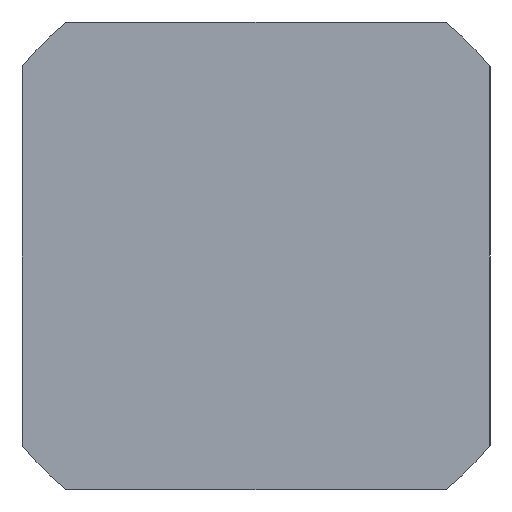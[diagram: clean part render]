
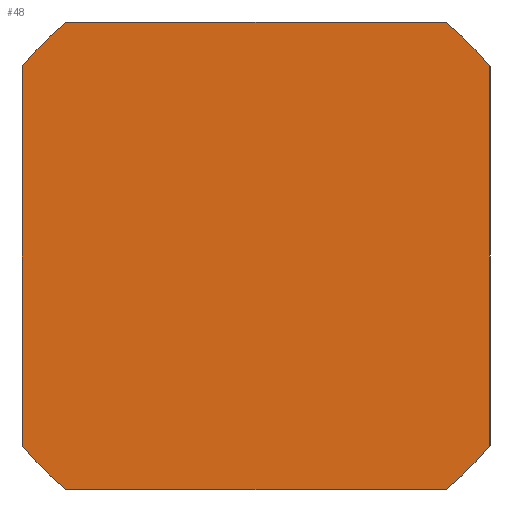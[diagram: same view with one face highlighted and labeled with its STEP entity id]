
A CAD part, front view. The second image highlights one B-rep face of the part: STEP entity #48.
In plain terms, the highlighted planar face has unit normal (0, -1, 0).
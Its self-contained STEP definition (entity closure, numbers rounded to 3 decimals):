
#38 = DIRECTION ( 'NONE',  ( 0., 1., 0. ) ) ;
#48 = ADVANCED_FACE ( 'NONE', ( #1369 ), #775, .F. ) ;
#66 = VERTEX_POINT ( 'NONE', #760 ) ;
#72 = DIRECTION ( 'NONE',  ( 0., 1., 0. ) ) ;
#87 = DIRECTION ( 'NONE',  ( 0., 0., 1. ) ) ;
#109 = AXIS2_PLACEMENT_3D ( 'NONE', #1464, #930, #145 ) ;
#112 = DIRECTION ( 'NONE',  ( 1., 0., 0. ) ) ;
#133 = VERTEX_POINT ( 'NONE', #1452 ) ;
#134 = ORIENTED_EDGE ( 'NONE', *, *, #798, .F. ) ;
#145 = DIRECTION ( 'NONE',  ( 0., 0., 1. ) ) ;
#198 = EDGE_CURVE ( 'NONE', #1624, #1243, #728, .T. ) ;
#217 = CARTESIAN_POINT ( 'NONE',  ( 0., 0., 0. ) ) ;
#228 = CARTESIAN_POINT ( 'NONE',  ( -21., 0., 16.971 ) ) ;
#231 = CARTESIAN_POINT ( 'NONE',  ( -16.971, 0., -21. ) ) ;
#259 = LINE ( 'NONE', #600, #1633 ) ;
#290 = VERTEX_POINT ( 'NONE', #817 ) ;
#318 = ORIENTED_EDGE ( 'NONE', *, *, #973, .T. ) ;
#337 = DIRECTION ( 'NONE',  ( -1., 0., 0. ) ) ;
#340 = ORIENTED_EDGE ( 'NONE', *, *, #474, .T. ) ;
#344 = ORIENTED_EDGE ( 'NONE', *, *, #198, .F. ) ;
#346 = DIRECTION ( 'NONE',  ( 0., 0., -1. ) ) ;
#423 = ORIENTED_EDGE ( 'NONE', *, *, #460, .F. ) ;
#436 = VECTOR ( 'NONE', #337, 1000. ) ;
#444 = AXIS2_PLACEMENT_3D ( 'NONE', #586, #1559, #87 ) ;
#460 = EDGE_CURVE ( 'NONE', #1412, #133, #843, .T. ) ;
#470 = CARTESIAN_POINT ( 'NONE',  ( 21., 0., 16.971 ) ) ;
#474 = EDGE_CURVE ( 'NONE', #1624, #290, #1250, .T. ) ;
#530 = DIRECTION ( 'NONE',  ( 0., 0., 1. ) ) ;
#557 = AXIS2_PLACEMENT_3D ( 'NONE', #1439, #1689, #1172 ) ;
#586 = CARTESIAN_POINT ( 'NONE',  ( 0., 0., 0. ) ) ;
#600 = CARTESIAN_POINT ( 'NONE',  ( -21., 0., -21. ) ) ;
#728 = CIRCLE ( 'NONE', #109, 27. ) ;
#742 = LINE ( 'NONE', #1016, #1244 ) ;
#760 = CARTESIAN_POINT ( 'NONE',  ( -21., 0., -16.971 ) ) ;
#775 = PLANE ( 'NONE',  #557 ) ;
#781 = EDGE_CURVE ( 'NONE', #1700, #290, #1420, .T. ) ;
#798 = EDGE_CURVE ( 'NONE', #892, #66, #1112, .T. ) ;
#817 = CARTESIAN_POINT ( 'NONE',  ( -16.971, 0., 21. ) ) ;
#843 = CIRCLE ( 'NONE', #444, 27. ) ;
#850 = ORIENTED_EDGE ( 'NONE', *, *, #932, .T. ) ;
#852 = CARTESIAN_POINT ( 'NONE',  ( 0., 0., 0. ) ) ;
#892 = VERTEX_POINT ( 'NONE', #231 ) ;
#928 = ORIENTED_EDGE ( 'NONE', *, *, #781, .F. ) ;
#930 = DIRECTION ( 'NONE',  ( 0., 1., 0. ) ) ;
#932 = EDGE_CURVE ( 'NONE', #892, #133, #259, .T. ) ;
#973 = EDGE_CURVE ( 'NONE', #1700, #66, #742, .T. ) ;
#1016 = CARTESIAN_POINT ( 'NONE',  ( -21., 0., -21. ) ) ;
#1025 = CARTESIAN_POINT ( 'NONE',  ( -21., 0., 21. ) ) ;
#1063 = LINE ( 'NONE', #1497, #1541 ) ;
#1111 = ORIENTED_EDGE ( 'NONE', *, *, #1384, .T. ) ;
#1112 = CIRCLE ( 'NONE', #1232, 27. ) ;
#1149 = CARTESIAN_POINT ( 'NONE',  ( 16.971, 0., 21. ) ) ;
#1172 = DIRECTION ( 'NONE',  ( 0., 0., 1. ) ) ;
#1174 = AXIS2_PLACEMENT_3D ( 'NONE', #852, #38, #1371 ) ;
#1232 = AXIS2_PLACEMENT_3D ( 'NONE', #217, #72, #1269 ) ;
#1236 = CARTESIAN_POINT ( 'NONE',  ( 21., 0., -16.971 ) ) ;
#1243 = VERTEX_POINT ( 'NONE', #470 ) ;
#1244 = VECTOR ( 'NONE', #346, 1000. ) ;
#1250 = LINE ( 'NONE', #1025, #436 ) ;
#1269 = DIRECTION ( 'NONE',  ( 0., 0., 1. ) ) ;
#1369 = FACE_OUTER_BOUND ( 'NONE', #1421, .T. ) ;
#1371 = DIRECTION ( 'NONE',  ( 0., 0., 1. ) ) ;
#1384 = EDGE_CURVE ( 'NONE', #1412, #1243, #1063, .T. ) ;
#1412 = VERTEX_POINT ( 'NONE', #1236 ) ;
#1420 = CIRCLE ( 'NONE', #1174, 27. ) ;
#1421 = EDGE_LOOP ( 'NONE', ( #340, #928, #318, #134, #850, #423, #1111, #344 ) ) ;
#1439 = CARTESIAN_POINT ( 'NONE',  ( 0., 0., 0. ) ) ;
#1452 = CARTESIAN_POINT ( 'NONE',  ( 16.971, 0., -21. ) ) ;
#1464 = CARTESIAN_POINT ( 'NONE',  ( 0., 0., 0. ) ) ;
#1497 = CARTESIAN_POINT ( 'NONE',  ( 21., 0., -21. ) ) ;
#1541 = VECTOR ( 'NONE', #530, 1000. ) ;
#1559 = DIRECTION ( 'NONE',  ( 0., 1., 0. ) ) ;
#1624 = VERTEX_POINT ( 'NONE', #1149 ) ;
#1633 = VECTOR ( 'NONE', #112, 1000. ) ;
#1689 = DIRECTION ( 'NONE',  ( 0., 1., 0. ) ) ;
#1700 = VERTEX_POINT ( 'NONE', #228 ) ;
